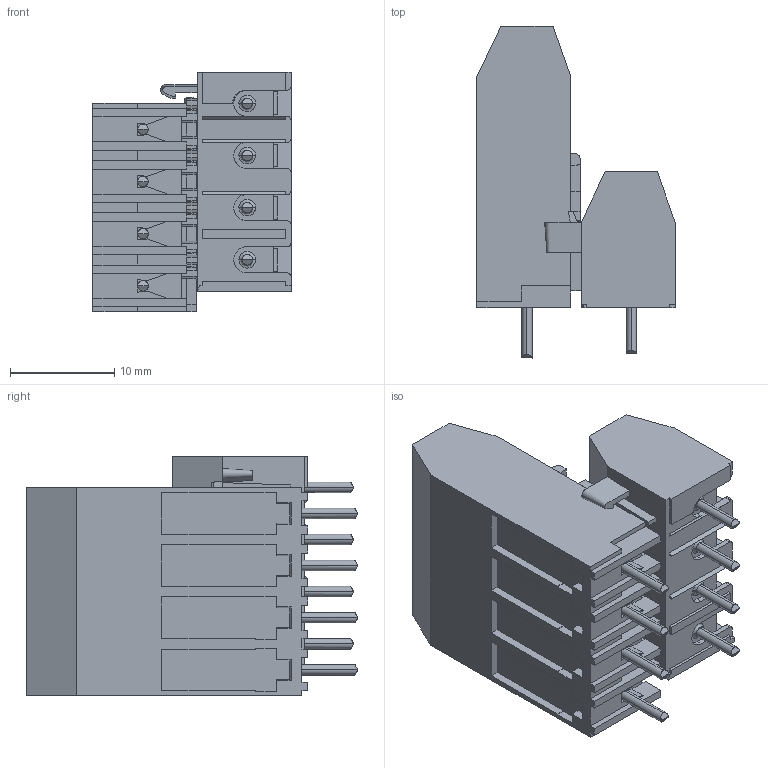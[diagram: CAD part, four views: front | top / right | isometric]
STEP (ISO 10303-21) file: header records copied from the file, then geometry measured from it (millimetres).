
FILE_DESCRIPTION (( 'STEP AP214' ), '1' );
FILE_NAME ('970-ENO-DS-08.STEP', '2009-02-27T15:08:21', ( 'weco' ), ( 'weco' ), 'SwSTEP 2.0', 'SolidWorks 2007', '' );
FILE_SCHEMA (( 'AUTOMOTIVE_DESIGN' ));
Length unit declared in the file: millimetre
Products named in the file (1): 970-ENO-DS-08
Bounding box: 19 x 31.8 x 23 mm (x, y, z)
Volume: 6119.1 mm3; surface area: 4970.4 mm2
Topology: 1 solids, 1 shells, 1174 faces, 3498 edges, 2268 vertices
Faces by surface type: plane 931, cylinder 178, cone 48, bspline 17
Entity records: 42399 total; most frequent: CARTESIAN_POINT 12653, ORIENTED_EDGE 6996, DIRECTION 4948, EDGE_CURVE 3498, VECTOR 2478, LINE 2478, VERTEX_POINT 2268, EDGE_LOOP 1252
